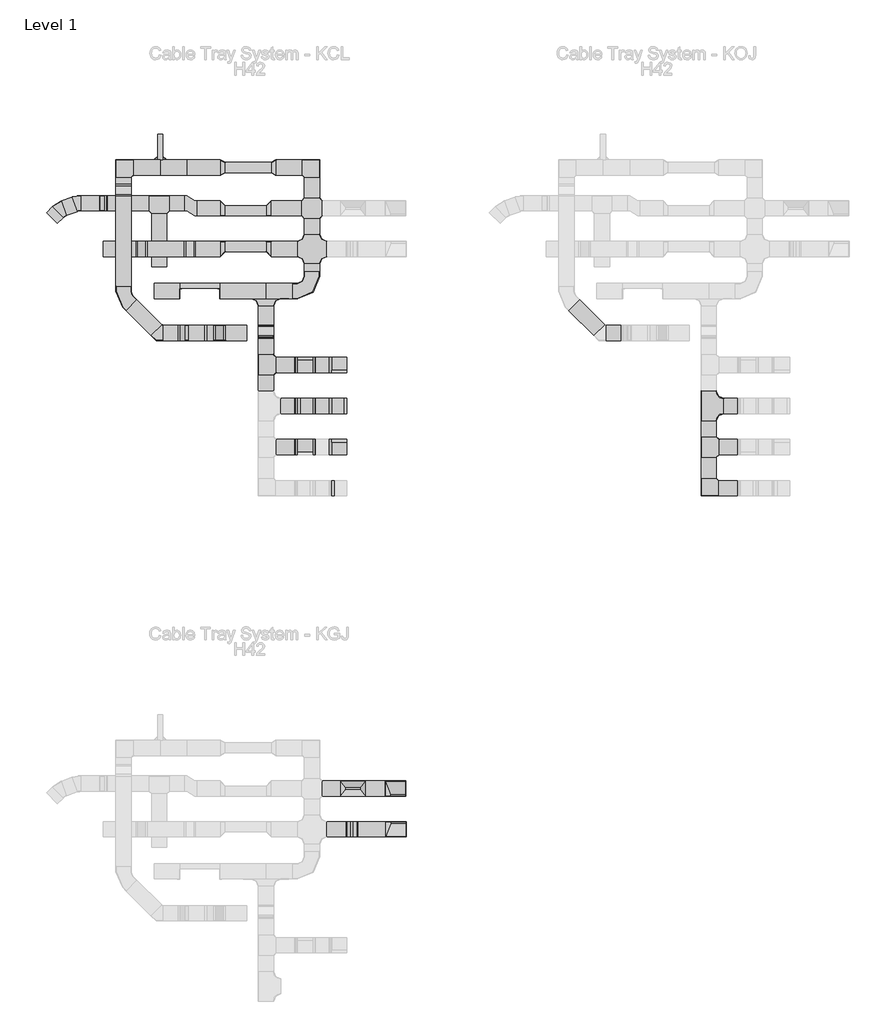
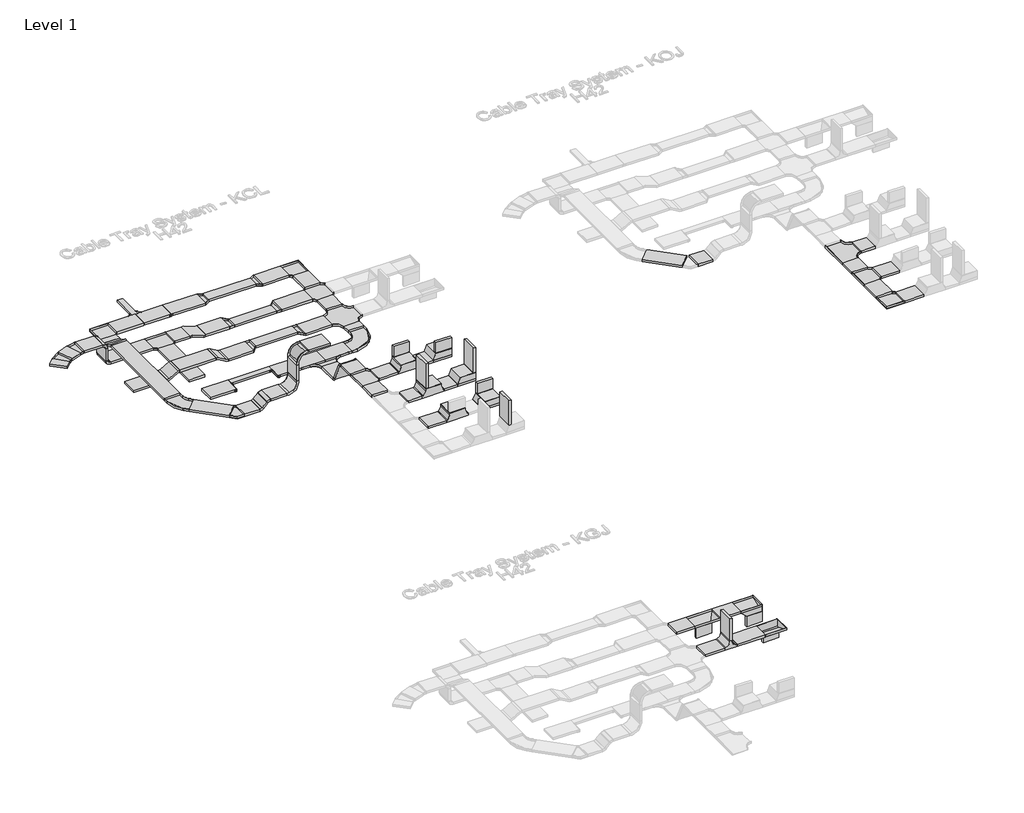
# One storey, part 2 of 32: 66 cable carrier segments, 48 cable carrier fittings.
"""IFC4 building model written with IfcOpenShell, lengths in millimetres."""

from ifc_helpers import new_model, si_unit, frame, origin, place, context, project, spatial, polyline, outline, extrude, transform, mapped, element, save
from components import cable_carrier_fitting_2f03b0e3, cable_carrier_fitting_e5c8e40d, cable_carrier_fitting_efa56db2, cable_carrier_fitting_2b67af39, cable_carrier_fitting_400b97e6, cable_carrier_fitting_736d034b, cable_carrier_fitting_94ef316f, cable_carrier_fitting_d4aa8912, cable_carrier_fitting_717dd42d, cable_carrier_fitting_b6ebce7b, cable_carrier_fitting_70c157f5, cable_carrier_fitting_f138ef00, cable_carrier_fitting_e93d4d17, cable_carrier_fitting_1724e2f5, cable_carrier_fitting_f62230c1, cable_carrier_fitting_ae8e9708, cable_carrier_fitting_2d1b2b1b, cable_carrier_fitting_6d558282, cable_carrier_fitting_b296faec, cable_carrier_fitting_47b1af77, cable_carrier_fitting_55953e98, cable_carrier_fitting_c1d9b0e5, cable_carrier_fitting_19ef2403, cable_carrier_fitting_0fee3a18, cable_carrier_fitting_93b13c26, cable_carrier_fitting_9011e538, cable_carrier_fitting_5d3ac796, cable_carrier_fitting_b8cc1d00, cable_carrier_fitting_0e05e12f, cable_carrier_fitting_aa4403b1, cable_carrier_fitting_3ff81d9b, cable_carrier_fitting_7d5806c9, cable_carrier_fitting_881c8fdb, cable_carrier_fitting_302010ec, rkj200_h42_828cf9d7, rkj200_h42_37d9c611

model = new_model("IFC4")

# Units and contexts
model_context = context("Model", 3, world=origin())
ifc_project = project(units=[si_unit("LENGTHUNIT", "METRE", prefix="MILLI")], contexts=[model_context])

# Site, building, storey
site = spatial("IfcSite", under=ifc_project)
building = spatial("IfcBuilding", under=site)
storey = spatial("IfcBuildingStorey", under=building, Name="Level 1", Elevation=0.0)

# Cable carrier fittings
placement = place(None, origin())
cable_carrier_fitting_shape = cable_carrier_fitting_2f03b0e3(model_context)
element("IfcCableCarrierFitting", 1, ObjectType="BAKS_Vertical tee symetrical : TRSNJ_H42", at=placement, inside=storey, context=model_context, shape_type="MappedRepresentation", body=[
    mapped(cable_carrier_fitting_shape, transform((-15558.1670538, 33580.8714214, 0.0), x_axis=(1.0, 0.0, 0.0), y_axis=(0.0, -1.0, 0.0), z_axis=(0.0, 0.0, -1.0))),
])
cable_carrier_fitting_2_shape = cable_carrier_fitting_e5c8e40d(model_context)
element("IfcCableCarrierFitting", 2, ObjectType="BAKS_SUB_Corner connector : LRJ_H42", at=placement, inside=storey, context=model_context, shape_type="MappedRepresentation", body=[
    mapped(cable_carrier_fitting_2_shape, transform((-19375.1670538, 46730.8714214, -21.0), x_axis=(-1.0, 0.0, 0.0), y_axis=(0.0, -1.0, 0.0), z_axis=(0.0, 0.0, 1.0))),
])
element("IfcCableCarrierFitting", 3, ObjectType="BAKS_SUB_Corner connector : LRJ_H42", at=placement, inside=storey, context=model_context, shape_type="MappedRepresentation", body=[
    mapped(cable_carrier_fitting_2_shape, transform((-19275.1670538, 46730.8714214, -21.0), x_axis=(0.0, 1.0, 0.0), y_axis=(-1.0, 0.0, 0.0), z_axis=(0.0, 0.0, 1.0))),
])
cable_carrier_fitting_3_shape = cable_carrier_fitting_efa56db2(model_context)
element("IfcCableCarrierFitting", 4, ObjectType="BAKS_Horizontal bypass : OPZNJ_H42", at=placement, inside=storey, context=model_context, shape_type="MappedRepresentation", body=[
    mapped(cable_carrier_fitting_3_shape, transform((-18722.1670538, 45780.8714214, 0.0), x_axis=(-1.0, 0.0, 0.0), y_axis=(0.0, 1.0, 0.0), z_axis=(0.0, 0.0, -1.0))),
])
cable_carrier_fitting_4_shape = cable_carrier_fitting_2b67af39(model_context)
element("IfcCableCarrierFitting", 5, ObjectType="BAKS_Vertical bypass : OPNNJ_H42", at=placement, inside=storey, context=model_context, shape_type="MappedRepresentation", body=[
    mapped(cable_carrier_fitting_4_shape, transform((-19686.6670538, 44980.8714214, 100.0), x_axis=(-1.0, 0.0, 0.0), y_axis=(0.0, -1.0, 0.0), z_axis=(0.0, 0.0, 1.0))),
])
cable_carrier_fitting_5_shape = cable_carrier_fitting_400b97e6(model_context)
element("IfcCableCarrierFitting", 6, ObjectType="BAKS_Vertical elbow left : KRLBJ_H42", at=placement, inside=storey, context=model_context, shape_type="MappedRepresentation", body=[
    mapped(cable_carrier_fitting_5_shape, transform((-14908.1670538, 34380.8714214, 0.0), x_axis=(1.0, 0.0, 0.0), y_axis=(0.0, 1.0, 0.0), z_axis=(0.0, 0.0, 1.0))),
])
cable_carrier_fitting_6_shape = cable_carrier_fitting_736d034b(model_context)
element("IfcCableCarrierFitting", 7, ObjectType="BAKS_Vertical tee lengthwise : TRBJ_H42", at=placement, inside=storey, context=model_context, shape_type="MappedRepresentation", body=[
    mapped(cable_carrier_fitting_6_shape, transform((-15538.1670538, 34380.8714214, 0.0), x_axis=(-1.0, 0.0, 0.0), y_axis=(0.0, -1.0, 0.0), z_axis=(0.0, 0.0, 1.0))),
])
cable_carrier_fitting_7_shape = cable_carrier_fitting_94ef316f(model_context)
element("IfcCableCarrierFitting", 8, ObjectType="BAKS_Reducer : RK(S/L/P)L_H42", at=placement, inside=storey, context=model_context, shape_type="MappedRepresentation", body=[
    mapped(cable_carrier_fitting_7_shape, transform((-18143.1670538, 46580.8714214, 0.0), x_axis=(1.0, 0.0, 0.0), y_axis=(0.0, 1.0, 0.0), z_axis=(0.0, 0.0, 1.0))),
])
cable_carrier_fitting_8_shape = cable_carrier_fitting_d4aa8912(model_context)
element("IfcCableCarrierFitting", 9, ObjectType="BAKS_Reducer : RK(S/L/P)L_H42", at=placement, inside=storey, context=model_context, shape_type="MappedRepresentation", body=[
    mapped(cable_carrier_fitting_8_shape, transform((-17143.1670538, 46580.8714214, 0.0), x_axis=(1.0, 0.0, 0.0), y_axis=(0.0, 1.0, 0.0), z_axis=(0.0, 0.0, 1.0))),
])
cable_carrier_fitting_9_shape = cable_carrier_fitting_717dd42d(model_context)
element("IfcCableCarrierFitting", 10, ObjectType="BAKS_Horizontal bend : KKBL/KKMBL_H42", at=placement, inside=storey, context=model_context, shape_type="MappedRepresentation", body=[
    mapped(cable_carrier_fitting_9_shape, transform((-16343.1670538, 46580.8714214, 0.0), x_axis=(0.0, 1.0, 0.0), y_axis=(-1.0, 0.0, 0.0), z_axis=(0.0, 0.0, 1.0))),
])
element("IfcCableCarrierFitting", 11, ObjectType="BAKS_Horizontal bend : KKBL/KKMBL_H42", at=placement, inside=storey, context=model_context, shape_type="MappedRepresentation", body=[
    mapped(cable_carrier_fitting_9_shape, transform((-20043.1670538, 46580.8714214, 0.0), x_axis=(-1.0, 0.0, 0.0), y_axis=(0.0, -1.0, 0.0), z_axis=(0.0, 0.0, 1.0))),
])
element("IfcCableCarrierFitting", 12, ObjectType="BAKS_Horizontal bend : KKBL/KKMBL_H42", at=placement, inside=storey, context=model_context, shape_type="MappedRepresentation", body=[
    mapped(cable_carrier_fitting_9_shape, transform((-8546.1670538, 40282.0146558, 432.5277378), x_axis=(0.0, -1.0, 0.0), y_axis=(1.0, 0.0, 0.0), z_axis=(0.0, 0.0, 1.0))),
])
cable_carrier_fitting_10_shape = cable_carrier_fitting_b6ebce7b(model_context)
element("IfcCableCarrierFitting", 13, ObjectType="BAKS_Horizontal tee : TKL_H42", at=placement, inside=storey, context=model_context, shape_type="MappedRepresentation", body=[
    mapped(cable_carrier_fitting_10_shape, transform((-19343.6670538, 45880.8714214, 0.0), x_axis=(1.0, 0.0, 0.0), y_axis=(0.0, 1.0, 0.0), z_axis=(0.0, 0.0, 1.0))),
])
element("IfcCableCarrierFitting", 14, ObjectType="BAKS_Horizontal tee : TKL_H42", at=placement, inside=storey, context=model_context, shape_type="MappedRepresentation", body=[
    mapped(cable_carrier_fitting_10_shape, transform((-8546.1670538, 41089.2974728, 432.5277378), x_axis=(0.0, 1.0, 0.0), y_axis=(-1.0, 0.0, 0.0), z_axis=(0.0, 0.0, 1.0))),
])
element("IfcCableCarrierFitting", 15, ObjectType="BAKS_Horizontal tee : TKL_H42", at=placement, inside=storey, context=model_context, shape_type="MappedRepresentation", body=[
    mapped(cable_carrier_fitting_10_shape, transform((-17246.1670538, 42703.8631068, 432.5277378), x_axis=(0.0, 1.0, 0.0), y_axis=(-1.0, 0.0, 0.0), z_axis=(0.0, 0.0, 1.0))),
])
cable_carrier_fitting_11_shape = cable_carrier_fitting_70c157f5(model_context)
element("IfcCableCarrierFitting", 16, ObjectType="BAKS_Reducer : RK(S/L/P)L_H42", at=placement, inside=storey, context=model_context, shape_type="MappedRepresentation", body=[
    mapped(cable_carrier_fitting_11_shape, transform((-18143.1670538, 45780.8714214, 0.0), x_axis=(1.0, 0.0, 0.0), y_axis=(0.0, 1.0, 0.0), z_axis=(0.0, 0.0, 1.0))),
])
element("IfcCableCarrierFitting", 17, ObjectType="BAKS_Reducer : RK(S/L/P)L_H42", at=placement, inside=storey, context=model_context, shape_type="MappedRepresentation", body=[
    mapped(cable_carrier_fitting_11_shape, transform((-17143.1670538, 44980.8714214, 0.0), x_axis=(-1.0, 0.0, 0.0), y_axis=(0.0, -1.0, 0.0), z_axis=(0.0, 0.0, 1.0))),
])
cable_carrier_fitting_12_shape = cable_carrier_fitting_f138ef00(model_context)
element("IfcCableCarrierFitting", 18, ObjectType="BAKS_Reducer : RK(S/L/P)L_H42", at=placement, inside=storey, context=model_context, shape_type="MappedRepresentation", body=[
    mapped(cable_carrier_fitting_12_shape, transform((-17143.1670538, 45780.8714214, 0.0), x_axis=(-1.0, 0.0, 0.0), y_axis=(0.0, -1.0, 0.0), z_axis=(0.0, 0.0, 1.0))),
])
element("IfcCableCarrierFitting", 19, ObjectType="BAKS_Reducer : RK(S/L/P)L_H42", at=placement, inside=storey, context=model_context, shape_type="MappedRepresentation", body=[
    mapped(cable_carrier_fitting_12_shape, transform((-18143.1670538, 44980.8714214, 0.0), x_axis=(1.0, 0.0, 0.0), y_axis=(0.0, 1.0, 0.0), z_axis=(0.0, 0.0, 1.0))),
])
cable_carrier_fitting_13_shape = cable_carrier_fitting_e93d4d17(model_context)
element("IfcCableCarrierFitting", 20, ObjectType="BAKS_Plate connector : LPMU_H42", at=placement, inside=storey, context=model_context, shape_type="MappedRepresentation", body=[
    mapped(cable_carrier_fitting_13_shape, transform((-18803.1670538, 46580.8714214, 0.0), x_axis=(1.0, 0.0, 0.0), y_axis=(0.0, 1.0, 0.0), z_axis=(0.0, 0.0, 1.0))),
])
cable_carrier_fitting_14_shape = cable_carrier_fitting_1724e2f5(model_context)
element("IfcCableCarrierFitting", 21, ObjectType="BAKS_Vertical bypass : OPNNJ_H42", at=placement, inside=storey, context=model_context, shape_type="MappedRepresentation", body=[
    mapped(cable_carrier_fitting_14_shape, transform((-18743.6670538, 44980.8714214, 0.0), x_axis=(-1.0, 0.0, 0.0), y_axis=(0.0, -1.0, 0.0), z_axis=(0.0, 0.0, 1.0))),
])
element("IfcCableCarrierFitting", 22, ObjectType="BAKS_Vertical bypass : OPNNJ_H42", at=placement, inside=storey, context=model_context, shape_type="MappedRepresentation", body=[
    mapped(cable_carrier_fitting_14_shape, transform((-20043.1670538, 46139.3714214, 0.0), x_axis=(0.0, -1.0, 0.0), y_axis=(1.0, 0.0, 0.0), z_axis=(0.0, 0.0, 1.0))),
])
cable_carrier_fitting_15_shape = cable_carrier_fitting_f62230c1(model_context)
element("IfcCableCarrierFitting", 23, ObjectType="BAKS_Vertical bend LU : LUNJ/LUMNJ_H42", at=placement, inside=storey, context=model_context, shape_type="MappedRepresentation", body=[
    mapped(cable_carrier_fitting_15_shape, transform((-20443.6670538, 45880.8714214, 0.0), x_axis=(-1.0, 0.0, 0.0), y_axis=(0.0, 0.0, 1.0), z_axis=(0.0, 1.0, 0.0))),
])
element("IfcCableCarrierFitting", 24, ObjectType="BAKS_Vertical bend LU : LUNJ/LUMNJ_H42", at=placement, inside=storey, context=model_context, shape_type="MappedRepresentation", body=[
    mapped(cable_carrier_fitting_15_shape, transform((-20443.6670538, 45880.8714214, 400.0), x_axis=(0.0, 0.0, 1.0), y_axis=(-1.0, 0.0, 0.0), z_axis=(0.0, -1.0, 0.0))),
])
cable_carrier_fitting_16_shape = cable_carrier_fitting_ae8e9708(model_context)
element("IfcCableCarrierFitting", 25, ObjectType="BAKS_Horizontal bend : KKBL/KKMBL_H42", at=placement, inside=storey, context=model_context, shape_type="MappedRepresentation", body=[
    mapped(cable_carrier_fitting_16_shape, transform((-19343.6670538, 43331.3714214, 100.0), x_axis=(0.7071067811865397, -0.7071067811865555, 0.0), y_axis=(0.7071067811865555, 0.7071067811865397, 0.0), z_axis=(0.0, 0.0, 1.0))),
])
cable_carrier_fitting_17_shape = cable_carrier_fitting_2d1b2b1b(model_context)
element("IfcCableCarrierFitting", 26, ObjectType="BAKS_Vertical bend LU : LUNJ/LUMNJ_H42", at=placement, inside=storey, context=model_context, shape_type="MappedRepresentation", body=[
    mapped(cable_carrier_fitting_17_shape, transform((-18943.6670538, 43331.3714214, 100.0), x_axis=(1.0, 0.0, 0.0), y_axis=(0.0, 0.0, 1.0), z_axis=(0.0, -1.0, 0.0))),
])
element("IfcCableCarrierFitting", 27, ObjectType="BAKS_Vertical bend LU : LUNJ/LUMNJ_H42", at=placement, inside=storey, context=model_context, shape_type="MappedRepresentation", body=[
    mapped(cable_carrier_fitting_17_shape, transform((-18806.2659001, 43331.3714214, 237.4011537), x_axis=(0.7071067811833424, 0.0, 0.7071067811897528), y_axis=(0.7071067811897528, 0.0, -0.7071067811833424), z_axis=(0.0, 1.0, 0.0))),
])
cable_carrier_fitting_18_shape = cable_carrier_fitting_6d558282(model_context)
element("IfcCableCarrierFitting", 28, ObjectType="BAKS_Vertical bend adjustable : LLL/LLJ_H42", at=placement, inside=storey, context=model_context, shape_type="MappedRepresentation", body=[
    mapped(cable_carrier_fitting_18_shape, transform((-18246.2659001, 43331.3714214, 237.4011537), x_axis=(1.0, 0.0, 0.0), y_axis=(0.0, 0.0, 1.0), z_axis=(0.0, -1.0, 0.0))),
])
element("IfcCableCarrierFitting", 29, ObjectType="BAKS_Vertical bend adjustable : LLL/LLJ_H42", at=placement, inside=storey, context=model_context, shape_type="MappedRepresentation", body=[
    mapped(cable_carrier_fitting_18_shape, transform((-18246.2659001, 43331.3714214, 977.4011537), x_axis=(0.0, 0.0, 1.0), y_axis=(1.0, 0.0, 0.0), z_axis=(0.0, 1.0, 0.0))),
])
cable_carrier_fitting_19_shape = cable_carrier_fitting_b296faec(model_context)
element("IfcCableCarrierFitting", 30, ObjectType="BAKS_Horizontal addon tee : TKDJ_H42", at=placement, inside=storey, context=model_context, shape_type="MappedRepresentation", body=[
    mapped(cable_carrier_fitting_19_shape, transform((-17246.1670538, 44155.8714214, 0.0), x_axis=(1.0, 0.0, 0.0), y_axis=(0.0, 1.0, 0.0), z_axis=(0.0, 0.0, 1.0))),
])
cable_carrier_fitting_20_shape = cable_carrier_fitting_47b1af77(model_context)
element("IfcCableCarrierFitting", 31, ObjectType="BAKS_Articulated_connector : LGJ_H42", at=placement, inside=storey, context=model_context, shape_type="MappedRepresentation", body=[
    mapped(cable_carrier_fitting_20_shape, transform((-17246.1670538, 43458.7056523, 0.0), x_axis=(0.0, -1.0, 0.0), y_axis=(0.0, 0.0, 1.0), z_axis=(-1.0, 0.0, 0.0))),
])
element("IfcCableCarrierFitting", 32, ObjectType="BAKS_Articulated_connector : LGJ_H42", at=placement, inside=storey, context=model_context, shape_type="MappedRepresentation", body=[
    mapped(cable_carrier_fitting_20_shape, transform((-17246.1670538, 43257.0146558, 432.5277378), x_axis=(0.0, -0.42261826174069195, 0.9063077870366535), y_axis=(0.0, -0.9063077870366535, -0.42261826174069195), z_axis=(1.0, 0.0, 0.0))),
])
cable_carrier_fitting_21_shape = cable_carrier_fitting_55953e98(model_context)
element("IfcCableCarrierFitting", 33, ObjectType="BAKS_Horizontal bend radius : KKPJ/KKMPJ_H42", at=placement, inside=storey, context=model_context, shape_type="MappedRepresentation", body=[
    mapped(cable_carrier_fitting_21_shape, transform((-20043.1670538, 44030.8714214, 100.0), x_axis=(0.0, -1.0, 0.0), y_axis=(1.0, 0.0, 0.0), z_axis=(0.0, 0.0, 1.0))),
])
cable_carrier_fitting_22_shape = cable_carrier_fitting_c1d9b0e5(model_context)
element("IfcCableCarrierFitting", 34, ObjectType="BAKS_Horizontal bend radius : KKPJ/KKMPJ_H42", at=placement, inside=storey, context=model_context, shape_type="MappedRepresentation", body=[
    mapped(cable_carrier_fitting_22_shape, transform((-16343.1670538, 44155.8714214, 0.0), x_axis=(1.0, 0.0, 0.0), y_axis=(0.0, 1.0, 0.0), z_axis=(0.0, 0.0, 1.0))),
])
cable_carrier_fitting_23_shape = cable_carrier_fitting_19ef2403(model_context)
element("IfcCableCarrierFitting", 35, ObjectType="BAKS_Adjustable bend : KKRPJ_H42", at=placement, inside=storey, context=model_context, shape_type="MappedRepresentation", body=[
    mapped(cable_carrier_fitting_23_shape, transform((-21281.9563973, 45757.7441698, 400.0), x_axis=(-0.9396926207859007, -0.34202014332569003, 0.0), y_axis=(0.34202014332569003, -0.9396926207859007, 0.0), z_axis=(0.0, 0.0, 1.0))),
])
cable_carrier_fitting_24_shape = cable_carrier_fitting_0fee3a18(model_context)
element("IfcCableCarrierFitting", 36, ObjectType="BAKS_Adjustable bend : KKRPJ_H42", at=placement, inside=storey, context=model_context, shape_type="MappedRepresentation", body=[
    mapped(cable_carrier_fitting_24_shape, transform((-20943.6670538, 45880.8714214, 400.0), x_axis=(-1.0, 0.0, 0.0), y_axis=(0.0, -1.0, 0.0), z_axis=(0.0, 0.0, 1.0))),
])
cable_carrier_fitting_25_shape = cable_carrier_fitting_93b13c26(model_context)
element("IfcCableCarrierFitting", 37, ObjectType="BAKS_Horizontal tee radius : TKPJ_H42", at=placement, inside=storey, context=model_context, shape_type="MappedRepresentation", body=[
    mapped(cable_carrier_fitting_25_shape, transform((-8546.1670538, 41896.5802898, 432.5277378), x_axis=(0.0, 1.0, 0.0), y_axis=(-1.0, 0.0, 0.0), z_axis=(0.0, 0.0, 1.0))),
])
cable_carrier_fitting_26_shape = cable_carrier_fitting_9011e538(model_context)
element("IfcCableCarrierFitting", 38, ObjectType="BAKS_Horizontal cross over : CZKL_H42", at=placement, inside=storey, context=model_context, shape_type="MappedRepresentation", body=[
    mapped(cable_carrier_fitting_26_shape, transform((-16343.1670538, 45780.8714214, 0.0), x_axis=(0.0, -1.0, 0.0), y_axis=(1.0, 0.0, 0.0), z_axis=(0.0, 0.0, 1.0))),
])
cable_carrier_fitting_27_shape = cable_carrier_fitting_5d3ac796(model_context)
element("IfcCableCarrierFitting", 39, ObjectType="BAKS_Horizontal cross over radius : CZKPJ_H42", at=placement, inside=storey, context=model_context, shape_type="MappedRepresentation", body=[
    mapped(cable_carrier_fitting_27_shape, transform((-16343.1670538, 44980.8714214, 0.0), x_axis=(0.0, -1.0, 0.0), y_axis=(1.0, 0.0, 0.0), z_axis=(0.0, 0.0, 1.0))),
])
cable_carrier_fitting_28_shape = cable_carrier_fitting_b8cc1d00(model_context)
element("IfcCableCarrierFitting", 40, ObjectType="BAKS_Vertical elbow right : KRPJ_H42", at=placement, inside=storey, context=model_context, shape_type="MappedRepresentation", body=[
    mapped(cable_carrier_fitting_28_shape, transform((-14902.1670538, 33580.8714214, 0.0), x_axis=(1.0, 0.0, 0.0), y_axis=(0.0, 1.0, 0.0), z_axis=(0.0, 0.0, 1.0))),
])
cable_carrier_fitting_29_shape = cable_carrier_fitting_0e05e12f(model_context)
element("IfcCableCarrierFitting", 41, ObjectType="BAKS_Universal elbow : KRUMJ_H42", at=placement, inside=storey, context=model_context, shape_type="MappedRepresentation", body=[
    mapped(cable_carrier_fitting_29_shape, transform((-16006.1670538, 42703.8631068, 432.5277378), x_axis=(1.0, 0.0, 0.0), y_axis=(0.0, 1.0, 0.0), z_axis=(0.0, 0.0, 1.0))),
])
cable_carrier_fitting_30_shape = cable_carrier_fitting_aa4403b1(model_context)
element("IfcCableCarrierFitting", 42, ObjectType="BAKS_Universal elbow : KRUMJ_H42", at=placement, inside=storey, context=model_context, shape_type="MappedRepresentation", body=[
    mapped(cable_carrier_fitting_30_shape, transform((-16006.1670538, 41089.2974728, 432.5277378), x_axis=(1.0, 0.0, 0.0), y_axis=(0.0, 1.0, 0.0), z_axis=(0.0, 0.0, 1.0))),
])
cable_carrier_fitting_31_shape = cable_carrier_fitting_3ff81d9b(model_context)
element("IfcCableCarrierFitting", 43, ObjectType="BAKS_Universal tee : TRUNJ_H42", at=placement, inside=storey, context=model_context, shape_type="MappedRepresentation", body=[
    mapped(cable_carrier_fitting_31_shape, transform((-16473.5199976, 42703.8631068, 432.5277378), x_axis=(-1.0, 0.0, 0.0), y_axis=(0.0, -1.0, 0.0), z_axis=(0.0, 0.0, 1.0))),
])
cable_carrier_fitting_32_shape = cable_carrier_fitting_7d5806c9(model_context)
element("IfcCableCarrierFitting", 44, ObjectType="BAKS_Universal tee : TRUNJ_H42", at=placement, inside=storey, context=model_context, shape_type="MappedRepresentation", body=[
    mapped(cable_carrier_fitting_32_shape, transform((-16473.5199976, 41089.2974728, 432.5277378), x_axis=(-1.0, 0.0, 0.0), y_axis=(0.0, -1.0, 0.0), z_axis=(0.0, 0.0, 1.0))),
])
cable_carrier_fitting_33_shape = cable_carrier_fitting_881c8fdb(model_context)
element("IfcCableCarrierFitting", 45, ObjectType="BAKS_Universal elbow : KRUMJ_H42", at=placement, inside=storey, context=model_context, shape_type="MappedRepresentation", body=[
    mapped(cable_carrier_fitting_33_shape, transform((-16006.1670538, 41896.5802898, 432.5277378), x_axis=(1.0, 0.0, 0.0), y_axis=(0.0, 1.0, 0.0), z_axis=(0.0, 0.0, 1.0))),
])
cable_carrier_fitting_34_shape = cable_carrier_fitting_302010ec(model_context)
element("IfcCableCarrierFitting", 46, ObjectType="BAKS_Universal tee : TRUNJ_H42", at=placement, inside=storey, context=model_context, shape_type="MappedRepresentation", body=[
    mapped(cable_carrier_fitting_34_shape, transform((-16473.5199976, 41896.5802898, 432.5277378), x_axis=(-1.0, 0.0, 0.0), y_axis=(0.0, -1.0, 0.0), z_axis=(0.0, 0.0, 1.0))),
])
rkj200_h42_shape = rkj200_h42_828cf9d7(model_context)
element("IfcCableCarrierFitting", 47, ObjectType="BAKS_Angle reducer : RKJ200_H42", at=placement, inside=storey, context=model_context, shape_type="MappedRepresentation", body=[
    mapped(rkj200_h42_shape, transform((-18153.1670538, 44155.8714214, 0.0), x_axis=(-1.0, 0.0, 0.0), y_axis=(0.0, -1.0, 0.0), z_axis=(0.0, 0.0, 1.0))),
])
rkj200_h42_2_shape = rkj200_h42_37d9c611(model_context)
element("IfcCableCarrierFitting", 48, ObjectType="BAKS_Angle reducer : RKJ200_H42", at=placement, inside=storey, context=model_context, shape_type="MappedRepresentation", body=[
    mapped(rkj200_h42_2_shape, transform((-18943.1670538, 44155.8714214, 0.0), x_axis=(1.0, 0.0, 0.0), y_axis=(0.0, 1.0, 0.0), z_axis=(0.0, 0.0, 1.0))),
])

# Cable carrier segments
element("IfcCableCarrierSegment", 49, ObjectType="BAKS - Cable tray H42 (KCL)", at=placement, inside=storey, context=model_context, shape_type="SweptSolid", body=[
    extrude(outline(polyline([(-18802.1670538, 46430.8714214), (-18802.1670538, 46730.8714214), (-18143.1670538, 46730.8714214), (-18143.1670538, 46430.8714214), (-18802.1670538, 46430.8714214)])), frame((0.0, 0.0, -21.0), z_axis=(0.0, 0.0, 1.0), x_axis=(1.0, 0.0, 0.0)), (0.0, 0.0, 1.0), 42.0),
])
element("IfcCableCarrierSegment", 50, ObjectType="BAKS - Cable tray H42 (KCL)", at=placement, inside=storey, context=model_context, shape_type="SweptSolid", body=[
    extrude(outline(polyline([(-18048.1670538, 46480.8714214), (-18048.1670538, 46680.8714214), (-17143.1670538, 46680.8714214), (-17143.1670538, 46480.8714214), (-18048.1670538, 46480.8714214)])), frame((0.0, 0.0, -21.0), z_axis=(0.0, 0.0, 1.0), x_axis=(1.0, 0.0, 0.0)), (0.0, 0.0, 1.0), 42.0),
])
element("IfcCableCarrierSegment", 51, ObjectType="BAKS - Cable tray H42 (KCL)", at=placement, inside=storey, context=model_context, shape_type="SweptSolid", body=[
    extrude(outline(polyline([(-17048.1670538, 46430.8714214), (-17048.1670538, 46730.8714214), (-16539.1670538, 46730.8714214), (-16539.1670538, 46430.8714214), (-17048.1670538, 46430.8714214)])), frame((0.0, 0.0, -21.0), z_axis=(0.0, 0.0, 1.0), x_axis=(1.0, 0.0, 0.0)), (0.0, 0.0, 1.0), 42.0),
])
element("IfcCableCarrierSegment", 52, ObjectType="BAKS - Cable tray H42 (KCL)", at=placement, inside=storey, context=model_context, shape_type="SweptSolid", body=[
    extrude(outline(polyline([(-16493.1670538, 46384.8714214), (-16193.1670538, 46384.8714214), (-16193.1670538, 45985.8714214), (-16493.1670538, 45985.8714214), (-16493.1670538, 46384.8714214)])), frame((0.0, 0.0, -21.0), z_axis=(0.0, 0.0, 1.0), x_axis=(1.0, 0.0, 0.0)), (0.0, 0.0, 1.0), 42.0),
])
element("IfcCableCarrierSegment", 53, ObjectType="BAKS - Cable tray H42 (KCL)", at=placement, inside=storey, context=model_context, shape_type="SweptSolid", body=[
    extrude(outline(polyline([(-16493.1670538, 45575.8714214), (-16193.1670538, 45575.8714214), (-16193.1670538, 45271.8714214), (-16493.1670538, 45271.8714214), (-16493.1670538, 45575.8714214)])), frame((0.0, 0.0, -21.0), z_axis=(0.0, 0.0, 1.0), x_axis=(1.0, 0.0, 0.0)), (0.0, 0.0, 1.0), 42.0),
])
element("IfcCableCarrierSegment", 54, ObjectType="BAKS - Cable tray H42 (KCL)", at=placement, inside=storey, context=model_context, shape_type="SweptSolid", body=[
    extrude(outline(polyline([(-17238.1670538, 45830.8714214), (-17238.1670538, 45630.8714214), (-18048.1670538, 45630.8714214), (-18048.1670538, 45830.8714214), (-17238.1670538, 45830.8714214)])), frame((0.0, 0.0, -21.0), z_axis=(0.0, 0.0, 1.0), x_axis=(1.0, 0.0, 0.0)), (0.0, 0.0, 1.0), 42.0),
])
element("IfcCableCarrierSegment", 55, ObjectType="BAKS - Cable tray H42 (KCL)", at=placement, inside=storey, context=model_context, shape_type="SweptSolid", body=[
    extrude(outline(polyline([(-18600.6670538, 45630.8714214), (-18600.6670538, 45930.8714214), (-18143.1670538, 45930.8714214), (-18143.1670538, 45630.8714214), (-18600.6670538, 45630.8714214)])), frame((0.0, 0.0, -21.0), z_axis=(0.0, 0.0, 1.0), x_axis=(1.0, 0.0, 0.0)), (0.0, 0.0, 1.0), 42.0),
])
element("IfcCableCarrierSegment", 56, ObjectType="BAKS - Cable tray H42 (KCL)", at=placement, inside=storey, context=model_context, shape_type="SweptSolid", body=[
    extrude(outline(polyline([(-16548.1670538, 45930.8714214), (-16548.1670538, 45630.8714214), (-17143.1670538, 45630.8714214), (-17143.1670538, 45930.8714214), (-16548.1670538, 45930.8714214)])), frame((0.0, 0.0, -21.0), z_axis=(0.0, 0.0, 1.0), x_axis=(1.0, 0.0, 0.0)), (0.0, 0.0, 1.0), 42.0),
])
element("IfcCableCarrierSegment", 57, ObjectType="BAKS - Cable tray H42 (KCL)", at=placement, inside=storey, context=model_context, shape_type="SweptSolid", body=[
    extrude(outline(polyline([(-17238.1670538, 45130.8714214), (-17238.1670538, 44930.8714214), (-18048.1670538, 44930.8714214), (-18048.1670538, 45130.8714214), (-17238.1670538, 45130.8714214)])), frame((0.0, 0.0, -21.0), z_axis=(0.0, 0.0, 1.0), x_axis=(1.0, 0.0, 0.0)), (0.0, 0.0, 1.0), 42.0),
])
element("IfcCableCarrierSegment", 58, ObjectType="BAKS - Cable tray H42 (KCL)", at=placement, inside=storey, context=model_context, shape_type="SweptSolid", body=[
    extrude(outline(polyline([(-18622.1670538, 44830.8714214), (-18622.1670538, 45130.8714214), (-18143.1670538, 45130.8714214), (-18143.1670538, 44830.8714214), (-18622.1670538, 44830.8714214)])), frame((0.0, 0.0, -21.0), z_axis=(0.0, 0.0, 1.0), x_axis=(1.0, 0.0, 0.0)), (0.0, 0.0, 1.0), 42.0),
])
element("IfcCableCarrierSegment", 59, ObjectType="BAKS - Cable tray H42 (KCL)", at=placement, inside=storey, context=model_context, shape_type="SweptSolid", body=[
    extrude(outline(polyline([(-16634.1670538, 45130.8714214), (-16634.1670538, 44830.8714214), (-17143.1670538, 44830.8714214), (-17143.1670538, 45130.8714214), (-16634.1670538, 45130.8714214)])), frame((0.0, 0.0, -21.0), z_axis=(0.0, 0.0, 1.0), x_axis=(1.0, 0.0, 0.0)), (0.0, 0.0, 1.0), 42.0),
])
element("IfcCableCarrierSegment", 60, ObjectType="BAKS - Cable tray H42 (KCL)", at=placement, inside=storey, context=model_context, shape_type="SweptSolid", body=[
    extrude(outline(polyline([(-19548.6670538, 46030.8714214), (-19548.6670538, 45730.8714214), (-20367.6670538, 45730.8714214), (-20367.6670538, 46030.8714214), (-19548.6670538, 46030.8714214)])), frame((0.0, 0.0, -21.0), z_axis=(0.0, 0.0, 1.0), x_axis=(1.0, 0.0, 0.0)), (0.0, 0.0, 1.0), 42.0),
])
element("IfcCableCarrierSegment", 61, ObjectType="BAKS - Cable tray H42 (KCL)", at=placement, inside=storey, context=model_context, shape_type="SweptSolid", body=[
    extrude(outline(polyline([(-18865.1670538, 45130.8714214), (-18865.1670538, 44830.8714214), (-19565.1670538, 44830.8714214), (-19565.1670538, 45130.8714214), (-18865.1670538, 45130.8714214)])), frame((0.0, 0.0, 79.0), z_axis=(0.0, 0.0, 1.0), x_axis=(1.0, 0.0, 0.0)), (0.0, 0.0, 1.0), 42.0),
])
element("IfcCableCarrierSegment", 62, ObjectType="BAKS - Cable tray H42 (KCL)", at=placement, inside=storey, context=model_context, shape_type="SweptSolid", body=[
    extrude(outline(polyline([(-20193.1670538, 46384.8714214), (-19893.1670538, 46384.8714214), (-19893.1670538, 46260.8714214), (-20193.1670538, 46260.8714214), (-20193.1670538, 46384.8714214)])), frame((0.0, 0.0, -21.0), z_axis=(0.0, 0.0, 1.0), x_axis=(1.0, 0.0, 0.0)), (0.0, 0.0, 1.0), 42.0),
])
element("IfcCableCarrierSegment", 63, ObjectType="BAKS - Cable tray H42 (KCL)", at=placement, inside=storey, context=model_context, shape_type="SweptSolid", body=[
    extrude(outline(polyline([(-19493.6670538, 45675.8714214), (-19193.6670538, 45675.8714214), (-19193.6670538, 44630.8714214), (-19493.6670538, 44630.8714214), (-19493.6670538, 45675.8714214)])), frame((0.0, 0.0, -21.0), z_axis=(0.0, 0.0, 1.0), x_axis=(1.0, 0.0, 0.0)), (0.0, 0.0, 1.0), 42.0),
])
element("IfcCableCarrierSegment", 64, ObjectType="BAKS - Cable tray H42 (KCL)", at=placement, inside=storey, context=model_context, shape_type="SweptSolid", body=[
    extrude(outline(polyline([(-18843.6670538, 46030.8714214), (-18843.6670538, 45730.8714214), (-19138.6670538, 45730.8714214), (-19138.6670538, 46030.8714214), (-18843.6670538, 46030.8714214)])), frame((0.0, 0.0, -21.0), z_axis=(0.0, 0.0, 1.0), x_axis=(1.0, 0.0, 0.0)), (0.0, 0.0, 1.0), 42.0),
])
element("IfcCableCarrierSegment", 65, ObjectType="BAKS - Cable tray H42 (KCL)", at=placement, inside=storey, context=model_context, shape_type="SweptSolid", body=[
    extrude(outline(polyline([(-19808.1670538, 45130.8714214), (-19808.1670538, 44830.8714214), (-20443.6670538, 44830.8714214), (-20443.6670538, 45130.8714214), (-19808.1670538, 45130.8714214)])), frame((0.0, 0.0, -21.0), z_axis=(0.0, 0.0, 1.0), x_axis=(1.0, 0.0, 0.0)), (0.0, 0.0, 1.0), 42.0),
])
element("IfcCableCarrierSegment", 66, ObjectType="BAKS - Cable tray H42 (KCL)", at=placement, inside=storey, context=model_context, shape_type="SweptSolid", body=[
    extrude(outline(polyline([(-20877.5322294, 45730.8714214), (-20877.5322294, 46030.8714214), (-20519.6670538, 46030.8714214), (-20519.6670538, 45730.8714214), (-20877.5322294, 45730.8714214)])), frame((0.0, 0.0, 379.0), z_axis=(0.0, 0.0, 1.0), x_axis=(1.0, 0.0, 0.0)), (0.0, 0.0, 1.0), 42.0),
])
element("IfcCableCarrierSegment", 67, ObjectType="BAKS - Cable tray H42 (KCL)", at=placement, inside=storey, context=model_context, shape_type="SweptSolid", body=[
    extrude(outline(polyline([(-20464.6670538, 46030.8714214), (-20422.6670538, 46030.8714214), (-20422.6670538, 45730.8714214), (-20464.6670538, 45730.8714214), (-20464.6670538, 46030.8714214)])), frame((0.0, 0.0, 76.0), z_axis=(0.0, 0.0, 1.0), x_axis=(1.0, 0.0, 0.0)), (0.0, 0.0, 1.0), 248.0),
])
element("IfcCableCarrierSegment", 68, ObjectType="BAKS - Cable tray H42 (KCL)", at=placement, inside=storey, context=model_context, shape_type="SweptSolid", body=[
    extrude(outline(polyline([(-19893.1670538, 44250.9933545), (-20193.1670538, 44250.9933545), (-20193.1670538, 46017.8714214), (-19893.1670538, 46017.8714214), (-19893.1670538, 44250.9933545)])), frame((0.0, 0.0, 79.0), z_axis=(0.0, 0.0, 1.0), x_axis=(1.0, 0.0, 0.0)), (0.0, 0.0, 1.0), 42.0),
])
element("IfcCableCarrierSegment", 69, ObjectType="BAKS - Cable tray H42 (KCL)", at=placement, inside=storey, context=model_context, shape_type="SweptSolid", body=[
    extrude(outline(polyline([(-19993.5833594, 43769.1556926), (-19781.451325, 43981.287727), (-19295.422321, 43495.258723), (-19507.5543554, 43283.1266887), (-19993.5833594, 43769.1556926)])), frame((0.0, 0.0, 79.0), z_axis=(0.0, 0.0, 1.0), x_axis=(1.0, 0.0, 0.0)), (0.0, 0.0, 1.0), 42.0),
])
element("IfcCableCarrierSegment", 70, ObjectType="BAKS - Cable tray H42 (KCL)", at=placement, inside=storey, context=model_context, shape_type="SweptSolid", body=[
    extrude(outline(polyline([(-19261.8954091, 43181.3714214), (-19261.8954091, 43481.3714214), (-18978.0762167, 43481.3714214), (-18978.0762167, 43181.3714214), (-19261.8954091, 43181.3714214)])), frame((0.0, 0.0, 79.0), z_axis=(0.0, 0.0, 1.0), x_axis=(1.0, 0.0, 0.0)), (0.0, 0.0, 1.0), 42.0),
])
element("IfcCableCarrierSegment", 71, ObjectType="BAKS - Cable tray H42 (KCL)", at=placement, inside=storey, context=model_context, shape_type="SweptSolid", body=[
    extrude(outline(polyline([(21.0, 1.4628667), (-21.0, 1.4628667), (-21.0, 301.4628667), (21.0, 301.4628667), (21.0, 1.4628667)])), frame((-18919.3361013, 43179.9085547, 124.3309524), z_axis=(0.7071067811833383, 0.0, 0.7071067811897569), x_axis=(0.7071067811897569, 0.0, -0.7071067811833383)), (0.0, 0.0, 1.0), 125.4962492),
])
element("IfcCableCarrierSegment", 72, ObjectType="BAKS - Cable tray H42 (KCL)", at=placement, inside=storey, context=model_context, shape_type="SweptSolid", body=[
    extrude(outline(polyline([(-18771.8567371, 43181.3714214), (-18771.8567371, 43481.3714214), (-18457.2659001, 43481.3714214), (-18457.2659001, 43181.3714214), (-18771.8567371, 43181.3714214)])), frame((0.0, 0.0, 216.4011537), z_axis=(0.0, 0.0, 1.0), x_axis=(1.0, 0.0, 0.0)), (0.0, 0.0, 1.0), 42.0),
])
element("IfcCableCarrierSegment", 73, ObjectType="BAKS - Cable tray H42 (KCL)", at=placement, inside=storey, context=model_context, shape_type="SweptSolid", body=[
    extrude(outline(polyline([(-18225.2659001, 43181.3714214), (-18267.2659001, 43181.3714214), (-18267.2659001, 43481.3714214), (-18225.2659001, 43481.3714214), (-18225.2659001, 43181.3714214)])), frame((0.0, 0.0, 448.4011537), z_axis=(0.0, 0.0, 1.0), x_axis=(1.0, 0.0, 0.0)), (0.0, 0.0, 1.0), 318.0),
])
element("IfcCableCarrierSegment", 74, ObjectType="BAKS - Cable tray H42 (KCL)", at=placement, inside=storey, context=model_context, shape_type="SweptSolid", body=[
    extrude(outline(polyline([(-18035.2659001, 43181.3714214), (-18035.2659001, 43481.3714214), (-17626.2659001, 43481.3714214), (-17626.2659001, 43181.3714214), (-18035.2659001, 43181.3714214)])), frame((0.0, 0.0, 956.4011537), z_axis=(0.0, 0.0, 1.0), x_axis=(1.0, 0.0, 0.0)), (0.0, 0.0, 1.0), 42.0),
])
element("IfcCableCarrierSegment", 75, ObjectType="BAKS - Cable tray H42 (KCL)", at=placement, inside=storey, context=model_context, shape_type="SweptSolid", body=[
    extrude(outline(polyline([(-17246.7091451, 44305.8714214), (-17246.7091451, 44005.8714214), (-18153.1670538, 44005.8714214), (-18153.1670538, 44305.8714214), (-17246.7091451, 44305.8714214)])), frame((0.0, 0.0, -21.0), z_axis=(0.0, 0.0, 1.0), x_axis=(1.0, 0.0, 0.0)), (0.0, 0.0, 1.0), 42.0),
])
element("IfcCableCarrierSegment", 76, ObjectType="BAKS - Cable tray H42 (KCL)", at=placement, inside=storey, context=model_context, shape_type="SweptSolid", body=[
    extrude(outline(polyline([(-18938.1670538, 44205.8714214), (-18938.1670538, 44305.8714214), (-18158.1670538, 44305.8714214), (-18158.1670538, 44205.8714214), (-18938.1670538, 44205.8714214)])), frame((0.0, 0.0, -21.0), z_axis=(0.0, 0.0, 1.0), x_axis=(1.0, 0.0, 0.0)), (0.0, 0.0, 1.0), 42.0),
])
element("IfcCableCarrierSegment", 77, ObjectType="BAKS - Cable tray H42 (KCL)", at=placement, inside=storey, context=model_context, shape_type="SweptSolid", body=[
    extrude(outline(polyline([(-16193.1670538, 44545.8714214), (-16493.1670538, 44545.8714214), (-16493.1670538, 44689.8714214), (-16193.1670538, 44689.8714214), (-16193.1670538, 44545.8714214)])), frame((0.0, 0.0, -21.0), z_axis=(0.0, 0.0, 1.0), x_axis=(1.0, 0.0, 0.0)), (0.0, 0.0, 1.0), 42.0),
])
element("IfcCableCarrierSegment", 78, ObjectType="BAKS - Cable tray H42 (KCL)", at=placement, inside=storey, context=model_context, shape_type="SweptSolid", body=[
    extrude(outline(polyline([(-19443.1670538, 44005.8714214), (-19443.1670538, 44305.8714214), (-18943.1670538, 44305.8714214), (-18943.1670538, 44005.8714214), (-19443.1670538, 44005.8714214)])), frame((0.0, 0.0, -21.0), z_axis=(0.0, 0.0, 1.0), x_axis=(1.0, 0.0, 0.0)), (0.0, 0.0, 1.0), 42.0),
])
element("IfcCableCarrierSegment", 79, ObjectType="BAKS - Cable tray H42 (KCL)", at=placement, inside=storey, context=model_context, shape_type="SweptSolid", body=[
    extrude(outline(polyline([(-16733.1670538, 44305.8714214), (-16733.1670538, 44005.8714214), (-17245.6249624, 44005.8714214), (-17245.6249624, 44305.8714214), (-16733.1670538, 44305.8714214)])), frame((0.0, 0.0, -21.0), z_axis=(0.0, 0.0, 1.0), x_axis=(1.0, 0.0, 0.0)), (0.0, 0.0, 1.0), 42.0),
])
element("IfcCableCarrierSegment", 80, ObjectType="BAKS - Cable tray H42 (KCL)", at=placement, inside=storey, context=model_context, shape_type="SweptSolid", body=[
    extrude(outline(polyline([(-17396.1670538, 43859.8714214), (-17096.1670538, 43859.8714214), (-17096.1670538, 43494.8255329), (-17396.1670538, 43494.8255329), (-17396.1670538, 43859.8714214)])), frame((0.0, 0.0, -21.0), z_axis=(0.0, 0.0, 1.0), x_axis=(1.0, 0.0, 0.0)), (0.0, 0.0, 1.0), 42.0),
])
element("IfcCableCarrierSegment", 81, ObjectType="BAKS - Cable tray H42 (KCL)", at=placement, inside=storey, context=model_context, shape_type="SweptSolid", body=[
    extrude(outline(polyline([(-150.0, 130.4628667), (-150.0, 172.4628667), (150.0, 172.4628667), (150.0, 130.4628667), (-150.0, 130.4628667)])), frame((-17246.1670538, 43306.1687555, -31.2752443), z_axis=(0.0, -0.42261826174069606, 0.9063077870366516), x_axis=(1.0, 0.0, 0.0)), (0.0, 0.0, 1.0), 405.0017938),
])
element("IfcCableCarrierSegment", 82, ObjectType="BAKS - Cable tray H42 (KCL)", at=placement, inside=storey, context=model_context, shape_type="SweptSolid", body=[
    extrude(outline(polyline([(-21057.1164817, 45999.2058724), (-20954.5104387, 45717.2980862), (-21156.1437833, 45643.9095505), (-21258.7498263, 45925.8173368), (-21057.1164817, 45999.2058724)])), frame((0.0, 0.0, 379.0), z_axis=(0.0, 0.0, 1.0), x_axis=(1.0, 0.0, 0.0)), (0.0, 0.0, 1.0), 42.0),
])
element("IfcCableCarrierSegment", 83, ObjectType="BAKS - Cable tray H42 (KCL)", at=placement, inside=storey, context=model_context, shape_type="SweptSolid", body=[
    extrude(outline(polyline([(-21444.0899379, 45807.7426635), (-21231.9579036, 45595.6106291), (-21344.3432656, 45483.2252671), (-21556.4753, 45695.3573015), (-21444.0899379, 45807.7426635)])), frame((0.0, 0.0, 379.0), z_axis=(0.0, 0.0, 1.0), x_axis=(1.0, 0.0, 0.0)), (0.0, 0.0, 1.0), 42.0),
])
element("IfcCableCarrierSegment", 84, ObjectType="BAKS - Cable tray H42 (KGJ)", at=placement, inside=storey, context=model_context, shape_type="SweptSolid", body=[
    extrude(outline(polyline([(-16138.1670538, 34230.8714214), (-16138.1670538, 34530.8714214), (-15788.1670538, 34530.8714214), (-15788.1670538, 34230.8714214), (-16138.1670538, 34230.8714214)])), frame((0.0, 0.0, -21.0), z_axis=(0.0, 0.0, 1.0), x_axis=(1.0, 0.0, 0.0)), (0.0, 0.0, 1.0), 42.0),
])
element("IfcCableCarrierSegment", 85, ObjectType="BAKS - Cable tray H42 (KGJ)", at=placement, inside=storey, context=model_context, shape_type="SweptSolid", body=[
    extrude(outline(polyline([(-16052.1670538, 33430.8714214), (-16052.1670538, 33730.8714214), (-15674.1670538, 33730.8714214), (-15674.1670538, 33430.8714214), (-16052.1670538, 33430.8714214)])), frame((0.0, 0.0, -21.0), z_axis=(0.0, 0.0, 1.0), x_axis=(1.0, 0.0, 0.0)), (0.0, 0.0, 1.0), 42.0),
])
element("IfcCableCarrierSegment", 86, ObjectType="BAKS - Cable tray H42 (KGJ)", at=placement, inside=storey, context=model_context, shape_type="SweptSolid", body=[
    extrude(outline(polyline([(-15442.1670538, 33430.8714214), (-15442.1670538, 33730.8714214), (-14902.1670538, 33730.8714214), (-14902.1670538, 33430.8714214), (-15442.1670538, 33430.8714214)])), frame((0.0, 0.0, -21.0), z_axis=(0.0, 0.0, 1.0), x_axis=(1.0, 0.0, 0.0)), (0.0, 0.0, 1.0), 42.0),
])
element("IfcCableCarrierSegment", 87, ObjectType="BAKS - Cable tray H42 (KGJ)", at=placement, inside=storey, context=model_context, shape_type="SweptSolid", body=[
    extrude(outline(polyline([(-15537.1670538, 33430.8714214), (-15579.1670538, 33430.8714214), (-15579.1670538, 33730.8714214), (-15537.1670538, 33730.8714214), (-15537.1670538, 33430.8714214)])), frame((0.0, 0.0, 136.0), z_axis=(0.0, 0.0, 1.0), x_axis=(1.0, 0.0, 0.0)), (0.0, 0.0, 1.0), 449.0),
])
element("IfcCableCarrierSegment", 88, ObjectType="BAKS - Cable tray H42 (KGJ)", at=placement, inside=storey, context=model_context, shape_type="SweptSolid", body=[
    extrude(outline(polyline([(-15288.1670538, 34230.8714214), (-15288.1670538, 34530.8714214), (-14908.1670538, 34530.8714214), (-14908.1670538, 34230.8714214), (-15288.1670538, 34230.8714214)])), frame((0.0, 0.0, -21.0), z_axis=(0.0, 0.0, 1.0), x_axis=(1.0, 0.0, 0.0)), (0.0, 0.0, 1.0), 42.0),
])
element("IfcCableCarrierSegment", 89, ObjectType="BAKS - Cable tray H42 (KOJ)", at=placement, inside=storey, context=model_context, shape_type="SweptSolid", body=[
    extrude(outline(polyline([(-11293.5833594, 43769.1556926), (-11081.451325, 43981.287727), (-10595.422321, 43495.258723), (-10807.5543554, 43283.1266887), (-11293.5833594, 43769.1556926)])), frame((0.0, 0.0, 79.0), z_axis=(0.0, 0.0, 1.0), x_axis=(1.0, 0.0, 0.0)), (0.0, 0.0, 1.0), 42.0),
])
element("IfcCableCarrierSegment", 90, ObjectType="BAKS - Cable tray H42 (KOJ)", at=placement, inside=storey, context=model_context, shape_type="SweptSolid", body=[
    extrude(outline(polyline([(-10561.8954091, 43181.3714214), (-10561.8954091, 43481.3714214), (-10278.0762167, 43481.3714214), (-10278.0762167, 43181.3714214), (-10561.8954091, 43181.3714214)])), frame((0.0, 0.0, 79.0), z_axis=(0.0, 0.0, 1.0), x_axis=(1.0, 0.0, 0.0)), (0.0, 0.0, 1.0), 42.0),
])
element("IfcCableCarrierSegment", 91, ObjectType="BAKS - Cable tray H42 (KCL)", at=placement, inside=storey, context=model_context, shape_type="SweptSolid", body=[
    extrude(outline(polyline([(-19325.6670538, 46730.8714214), (-19325.6670538, 46430.8714214), (-19847.1670538, 46430.8714214), (-19847.1670538, 46730.8714214), (-19325.6670538, 46730.8714214)])), frame((0.0, 0.0, -21.0), z_axis=(0.0, 0.0, 1.0), x_axis=(1.0, 0.0, 0.0)), (0.0, 0.0, 1.0), 42.0),
])
element("IfcCableCarrierSegment", 92, ObjectType="BAKS - Cable tray H42 (KCL)", at=placement, inside=storey, context=model_context, shape_type="SweptSolid", body=[
    extrude(outline(polyline([(-19275.1670538, 46730.8714214), (-19375.1670538, 46730.8714214), (-19375.1670538, 47230.8714214), (-19275.1670538, 47230.8714214), (-19275.1670538, 46730.8714214)])), frame((0.0, 0.0, -21.0), z_axis=(0.0, 0.0, 1.0), x_axis=(1.0, 0.0, 0.0)), (0.0, 0.0, 1.0), 42.0),
])
element("IfcCableCarrierSegment", 93, ObjectType="BAKS - Cable tray H42 (KCL)", at=placement, inside=storey, context=model_context, shape_type="SweptSolid", body=[
    extrude(outline(polyline([(-18803.1670538, 46730.8714214), (-18803.1670538, 46430.8714214), (-19324.6670538, 46430.8714214), (-19324.6670538, 46730.8714214), (-18803.1670538, 46730.8714214)])), frame((0.0, 0.0, -21.0), z_axis=(0.0, 0.0, 1.0), x_axis=(1.0, 0.0, 0.0)), (0.0, 0.0, 1.0), 42.0),
])
element("IfcCableCarrierSegment", 94, ObjectType="BAKS - Cable tray H42 (KOJ)", at=placement, inside=storey, context=model_context, shape_type="SweptSolid", body=[
    extrude(outline(polyline([(-8696.1670538, 40884.2974728), (-8396.1670538, 40884.2974728), (-8396.1670538, 40478.0146558), (-8696.1670538, 40478.0146558), (-8696.1670538, 40884.2974728)])), frame((0.0, 0.0, 411.5277378), z_axis=(0.0, 0.0, 1.0), x_axis=(1.0, 0.0, 0.0)), (0.0, 0.0, 1.0), 42.0),
])
element("IfcCableCarrierSegment", 95, ObjectType="BAKS - Cable tray H42 (KOJ)", at=placement, inside=storey, context=model_context, shape_type="SweptSolid", body=[
    extrude(outline(polyline([(-8696.1670538, 41601.5802898), (-8396.1670538, 41601.5802898), (-8396.1670538, 41294.2974728), (-8696.1670538, 41294.2974728), (-8696.1670538, 41601.5802898)])), frame((0.0, 0.0, 411.5277378), z_axis=(0.0, 0.0, 1.0), x_axis=(1.0, 0.0, 0.0)), (0.0, 0.0, 1.0), 42.0),
])
element("IfcCableCarrierSegment", 96, ObjectType="BAKS - Cable tray H42 (KOJ)", at=placement, inside=storey, context=model_context, shape_type="SweptSolid", body=[
    extrude(outline(polyline([(-8251.1670538, 41746.5802898), (-8251.1670538, 42046.5802898), (-7983.5199976, 42046.5802898), (-7983.5199976, 41746.5802898), (-8251.1670538, 41746.5802898)])), frame((0.0, 0.0, 411.5277378), z_axis=(0.0, 0.0, 1.0), x_axis=(1.0, 0.0, 0.0)), (0.0, 0.0, 1.0), 42.0),
])
element("IfcCableCarrierSegment", 97, ObjectType="BAKS - Cable tray H42 (KOJ)", at=placement, inside=storey, context=model_context, shape_type="SweptSolid", body=[
    extrude(outline(polyline([(-8341.1670538, 40939.2974728), (-8341.1670538, 41239.2974728), (-7983.5199976, 41239.2974728), (-7983.5199976, 40939.2974728), (-8341.1670538, 40939.2974728)])), frame((0.0, 0.0, 411.5277378), z_axis=(0.0, 0.0, 1.0), x_axis=(1.0, 0.0, 0.0)), (0.0, 0.0, 1.0), 42.0),
])
element("IfcCableCarrierSegment", 98, ObjectType="BAKS - Cable tray H42 (KOJ)", at=placement, inside=storey, context=model_context, shape_type="SweptSolid", body=[
    extrude(outline(polyline([(-8350.1670538, 40132.0146558), (-8350.1670538, 40432.0146558), (-7983.5199976, 40432.0146558), (-7983.5199976, 40132.0146558), (-8350.1670538, 40132.0146558)])), frame((0.0, 0.0, 411.5277378), z_axis=(0.0, 0.0, 1.0), x_axis=(1.0, 0.0, 0.0)), (0.0, 0.0, 1.0), 42.0),
])
element("IfcCableCarrierSegment", 99, ObjectType="BAKS - Cable tray H42 (KCL)", at=placement, inside=storey, context=model_context, shape_type="SweptSolid", body=[
    extrude(outline(polyline([(-16263.5199976, 41746.5802898), (-16263.5199976, 42046.5802898), (-16006.1670538, 42046.5802898), (-16006.1670538, 41746.5802898), (-16263.5199976, 41746.5802898)])), frame((0.0, 0.0, 411.5277378), z_axis=(0.0, 0.0, 1.0), x_axis=(1.0, 0.0, 0.0)), (0.0, 0.0, 1.0), 42.0),
])
element("IfcCableCarrierSegment", 100, ObjectType="BAKS - Cable tray H42 (KCL)", at=placement, inside=storey, context=model_context, shape_type="SweptSolid", body=[
    extrude(outline(polyline([(-17396.1670538, 42498.8631068), (-17096.1670538, 42498.8631068), (-17096.1670538, 42191.5802898), (-17396.1670538, 42191.5802898), (-17396.1670538, 42498.8631068)])), frame((0.0, 0.0, 411.5277378), z_axis=(0.0, 0.0, 1.0), x_axis=(1.0, 0.0, 0.0)), (0.0, 0.0, 1.0), 42.0),
])
element("IfcCableCarrierSegment", 101, ObjectType="BAKS - Cable tray H42 (KCL)", at=placement, inside=storey, context=model_context, shape_type="SweptSolid", body=[
    extrude(outline(polyline([(-16263.5199976, 42553.8631068), (-16263.5199976, 42853.8631068), (-16006.1670538, 42853.8631068), (-16006.1670538, 42553.8631068), (-16263.5199976, 42553.8631068)])), frame((0.0, 0.0, 411.5277378), z_axis=(0.0, 0.0, 1.0), x_axis=(1.0, 0.0, 0.0)), (0.0, 0.0, 1.0), 42.0),
])
element("IfcCableCarrierSegment", 102, ObjectType="BAKS - Cable tray H42 (KCL)", at=placement, inside=storey, context=model_context, shape_type="SweptSolid", body=[
    extrude(outline(polyline([(-17096.1670538, 42908.8631068), (-17396.1670538, 42908.8631068), (-17396.1670538, 43220.8947751), (-17096.1670538, 43220.8947751), (-17096.1670538, 42908.8631068)])), frame((0.0, 0.0, 411.5277378), z_axis=(0.0, 0.0, 1.0), x_axis=(1.0, 0.0, 0.0)), (0.0, 0.0, 1.0), 42.0),
])
element("IfcCableCarrierSegment", 103, ObjectType="BAKS - Cable tray H42 (KCL)", at=placement, inside=storey, context=model_context, shape_type="SweptSolid", body=[
    extrude(outline(polyline([(-17041.1670538, 42553.8631068), (-17041.1670538, 42853.8631068), (-16683.5199976, 42853.8631068), (-16683.5199976, 42553.8631068), (-17041.1670538, 42553.8631068)])), frame((0.0, 0.0, 411.5277378), z_axis=(0.0, 0.0, 1.0), x_axis=(1.0, 0.0, 0.0)), (0.0, 0.0, 1.0), 42.0),
])
element("IfcCableCarrierSegment", 104, ObjectType="BAKS - Cable tray H42 (KCL)", at=placement, inside=storey, context=model_context, shape_type="SweptSolid", body=[
    extrude(outline(polyline([(-16951.1670538, 41746.5802898), (-16951.1670538, 42046.5802898), (-16683.5199976, 42046.5802898), (-16683.5199976, 41746.5802898), (-16951.1670538, 41746.5802898)])), frame((0.0, 0.0, 411.5277378), z_axis=(0.0, 0.0, 1.0), x_axis=(1.0, 0.0, 0.0)), (0.0, 0.0, 1.0), 42.0),
])
element("IfcCableCarrierSegment", 105, ObjectType="BAKS - Cable tray H42 (KCL)", at=placement, inside=storey, context=model_context, shape_type="SweptSolid", body=[
    extrude(outline(polyline([(-17041.1670538, 40939.2974728), (-17041.1670538, 41239.2974728), (-16683.5199976, 41239.2974728), (-16683.5199976, 40939.2974728), (-17041.1670538, 40939.2974728)])), frame((0.0, 0.0, 411.5277378), z_axis=(0.0, 0.0, 1.0), x_axis=(1.0, 0.0, 0.0)), (0.0, 0.0, 1.0), 42.0),
])
element("IfcCableCarrierSegment", 106, ObjectType="BAKS - Cable tray H42 (KCL)", at=placement, inside=storey, context=model_context, shape_type="SweptSolid", body=[
    extrude(outline(polyline([(-15956.1670538, 42553.8631068), (-15956.1670538, 42603.8631068), (-15656.1670538, 42603.8631068), (-15656.1670538, 42553.8631068), (-15956.1670538, 42553.8631068)])), frame((0.0, 0.0, 586.5277378), z_axis=(0.0, 0.0, 1.0), x_axis=(1.0, 0.0, 0.0)), (0.0, 0.0, 1.0), 209.7997464),
])
element("IfcCableCarrierSegment", 107, ObjectType="BAKS - Cable tray H42 (KCL)", at=placement, inside=storey, context=model_context, shape_type="SweptSolid", body=[
    extrude(outline(polyline([(-16323.5199976, 42853.8631068), (-16323.5199976, 42803.8631068), (-16623.5199976, 42803.8631068), (-16623.5199976, 42853.8631068), (-16323.5199976, 42853.8631068)])), frame((0.0, 0.0, 586.5277378), z_axis=(0.0, 0.0, 1.0), x_axis=(1.0, 0.0, 0.0)), (0.0, 0.0, 1.0), 209.7997464),
])
element("IfcCableCarrierSegment", 108, ObjectType="BAKS - Cable tray H42 (KCL)", at=placement, inside=storey, context=model_context, shape_type="SweptSolid", body=[
    extrude(outline(polyline([(-15706.1670538, 42046.5802898), (-15656.1670538, 42046.5802898), (-15656.1670538, 41746.5802898), (-15706.1670538, 41746.5802898), (-15706.1670538, 42046.5802898)])), frame((0.0, 0.0, 586.5277378), z_axis=(0.0, 0.0, 1.0), x_axis=(1.0, 0.0, 0.0)), (0.0, 0.0, 1.0), 500.0),
])
element("IfcCableCarrierSegment", 109, ObjectType="BAKS - Cable tray H42 (KCL)", at=placement, inside=storey, context=model_context, shape_type="SweptSolid", body=[
    extrude(outline(polyline([(-16623.5199976, 42046.5802898), (-16573.5199976, 42046.5802898), (-16573.5199976, 41746.5802898), (-16623.5199976, 41746.5802898), (-16623.5199976, 42046.5802898)])), frame((0.0, 0.0, 586.5277378), z_axis=(0.0, 0.0, 1.0), x_axis=(1.0, 0.0, 0.0)), (0.0, 0.0, 1.0), 500.0),
])
element("IfcCableCarrierSegment", 110, ObjectType="BAKS - Cable tray H42 (KCL)", at=placement, inside=storey, context=model_context, shape_type="SweptSolid", body=[
    extrude(outline(polyline([(-15956.1670538, 41189.2974728), (-15956.1670538, 41239.2974728), (-15656.1670538, 41239.2974728), (-15656.1670538, 41189.2974728), (-15956.1670538, 41189.2974728)])), frame((0.0, 0.0, 586.5277378), z_axis=(0.0, 0.0, 1.0), x_axis=(1.0, 0.0, 0.0)), (0.0, 0.0, 1.0), 209.7997464),
])
element("IfcCableCarrierSegment", 111, ObjectType="BAKS - Cable tray H42 (KCL)", at=placement, inside=storey, context=model_context, shape_type="SweptSolid", body=[
    extrude(outline(polyline([(-15956.1670538, 40432.0146558), (-15906.1670538, 40432.0146558), (-15906.1670538, 40132.0146558), (-15956.1670538, 40132.0146558), (-15956.1670538, 40432.0146558)])), frame((0.0, 0.0, 586.5277378), z_axis=(0.0, 0.0, 1.0), x_axis=(1.0, 0.0, 0.0)), (0.0, 0.0, 1.0), 500.0),
])
element("IfcCableCarrierSegment", 112, ObjectType="BAKS - Cable tray H42 (KGJ)", at=placement, inside=storey, context=model_context, shape_type="SweptSolid", body=[
    extrude(outline(polyline([(-14498.1670538, 34230.8714214), (-14798.1670538, 34230.8714214), (-14798.1670538, 34272.8714214), (-14498.1670538, 34272.8714214), (-14498.1670538, 34230.8714214)])), frame((0.0, 0.0, -330.7997464), z_axis=(0.0, 0.0, 1.0), x_axis=(1.0, 0.0, 0.0)), (0.0, 0.0, 1.0), 209.7997464),
])
element("IfcCableCarrierSegment", 113, ObjectType="BAKS - Cable tray H42 (KGJ)", at=placement, inside=storey, context=model_context, shape_type="SweptSolid", body=[
    extrude(outline(polyline([(-15688.1670538, 34401.8714214), (-15388.1670538, 34401.8714214), (-15388.1670538, 34359.8714214), (-15688.1670538, 34359.8714214), (-15688.1670538, 34401.8714214)])), frame((0.0, 0.0, -330.7997464), z_axis=(0.0, 0.0, 1.0), x_axis=(1.0, 0.0, 0.0)), (0.0, 0.0, 1.0), 209.7997464),
])
element("IfcCableCarrierSegment", 114, ObjectType="BAKS - Cable tray H42 (KGJ)", at=placement, inside=storey, context=model_context, shape_type="SweptSolid", body=[
    extrude(outline(polyline([(-14492.1670538, 33688.8714214), (-14792.1670538, 33688.8714214), (-14792.1670538, 33730.8714214), (-14492.1670538, 33730.8714214), (-14492.1670538, 33688.8714214)])), frame((0.0, 0.0, -330.7997464), z_axis=(0.0, 0.0, 1.0), x_axis=(1.0, 0.0, 0.0)), (0.0, 0.0, 1.0), 209.7997464),
])

save(model, "model.ifc")
